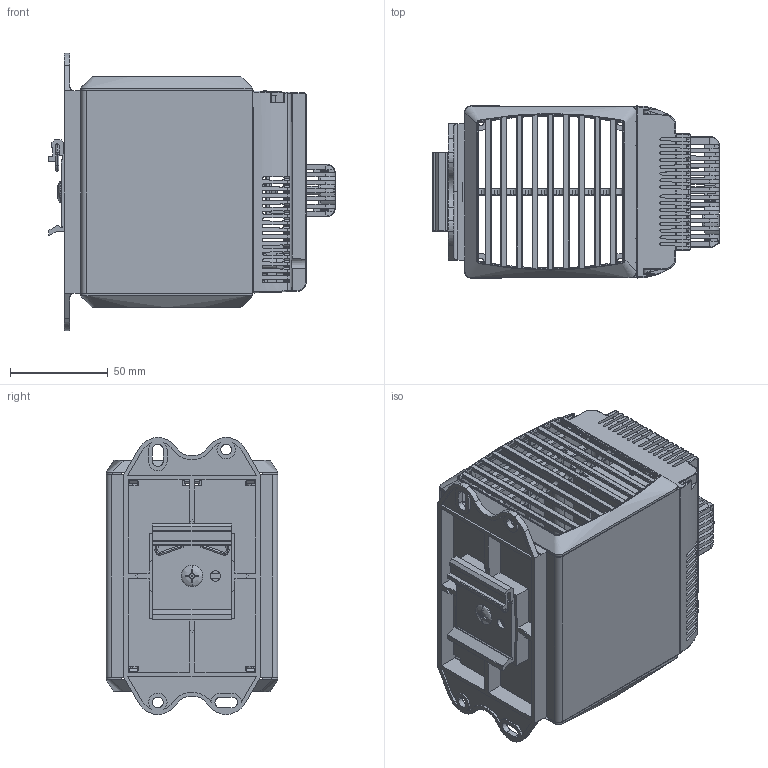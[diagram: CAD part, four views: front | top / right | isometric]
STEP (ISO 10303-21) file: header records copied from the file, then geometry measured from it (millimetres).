
FILE_DESCRIPTION (( 'STEP AP214' ), '1' );
FILE_NAME ('30345-200.STEP', '2017-11-28T10:22:41', ( '' ), ( '' ), 'SwSTEP 2.0', 'SolidWorks 2015', '' );
FILE_SCHEMA (( 'AUTOMOTIVE_DESIGN' ));
Length unit declared in the file: millimetre
Products named in the file (1): 30345-200
Bounding box: 147 x 88 x 142.1 mm (x, y, z)
Volume: 178837.8 mm3; surface area: 204213.3 mm2
Topology: 14 solids, 14 shells, 4635 faces, 13533 edges, 8820 vertices
Faces by surface type: plane 3047, cylinder 686, bspline 545, cone 263, torus 83, sphere 11
Entity records: 256143 total; most frequent: CARTESIAN_POINT 90924, ORIENTED_EDGE 27034, DIRECTION 19222, EDGE_CURVE 13517, LINE 8968, VECTOR 8968, VERTEX_POINT 8819, AXIS2_PLACEMENT_3D 5127
